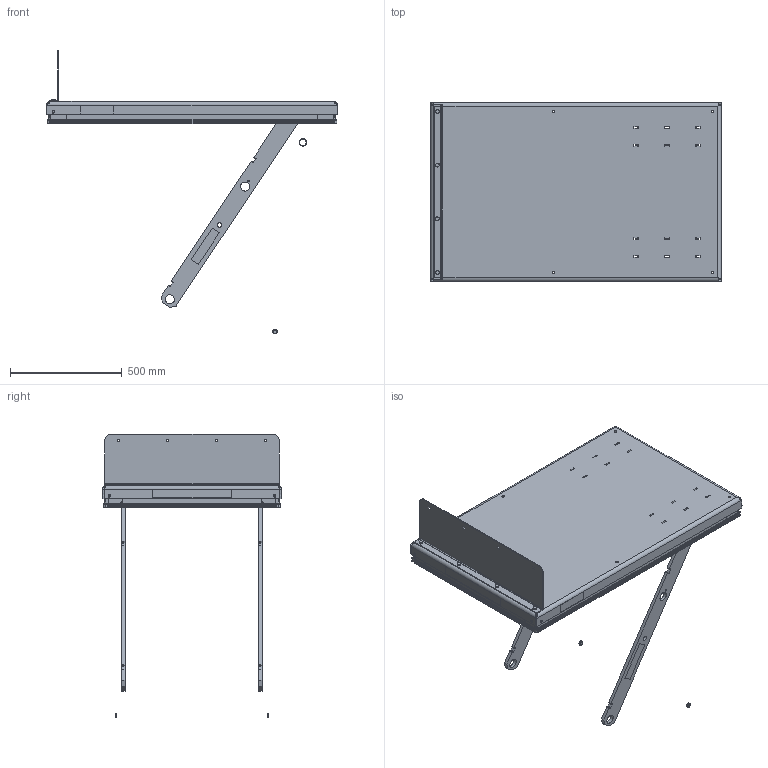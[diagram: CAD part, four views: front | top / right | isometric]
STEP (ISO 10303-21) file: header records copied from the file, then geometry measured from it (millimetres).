
FILE_DESCRIPTION(/* description */ (''),/* implementation_level */ '2;1');
FILE_NAME(/* name */ '\\EDMOFILE01\Users$\LENRO\Desktop\Runden ALT 1500\34031_Övreläge.stp',/* time_stamp */ '2015-05-29T08:54:03+02:00',/* author */ ('lenro'),/* organization */ (''),/* preprocessor_version */ 'ST-DEVELOPER v15.6',/* originating_system */ 'Autodesk Inventor 2015',/* authorisation */ '');
FILE_SCHEMA (('AUTOMOTIVE_DESIGN { 1 0 10303 214 3 1 1 }'));
Products named in the file (1): 34031_Övreläge
Bounding box: 1300.2 x 800.2 x 1270 mm (x, y, z)
Volume: 14214457.2 mm3; surface area: 4597164.6 mm2
Topology: 7 solids, 24 shells, 4182 faces, 11629 edges, 7577 vertices
Faces by surface type: plane 2198, cylinder 1212, bspline 526, cone 128, torus 70, sphere 48
Full cylindrical faces by diameter (mm): 0.474 x2, 1 x4, 3 x4, 3.141 x4, 3.2 x4, 4 x16, 4.3 x4, 4.9 x2, 5 x8, 5.2 x6, 5.3 x2, 7.4 x4, 7.6 x4, 8 x16, 8.5 x4, 10 x14, 10.5 x4, 11 x6, 11.6 x4, 11.63 x4, 12 x8, 14.6 x4, 14.63 x4, 16 x12, 20 x2, 20.3 x2, 29.8 x2, 30.3 x2, 40.3 x4
Entity records: 170892 total; most frequent: CARTESIAN_POINT 48886, ORIENTED_EDGE 25262, DIRECTION 22790, EDGE_CURVE 12617, VERTEX_POINT 8394, LINE 7724, VECTOR 7724, AXIS2_PLACEMENT_3D 7533
